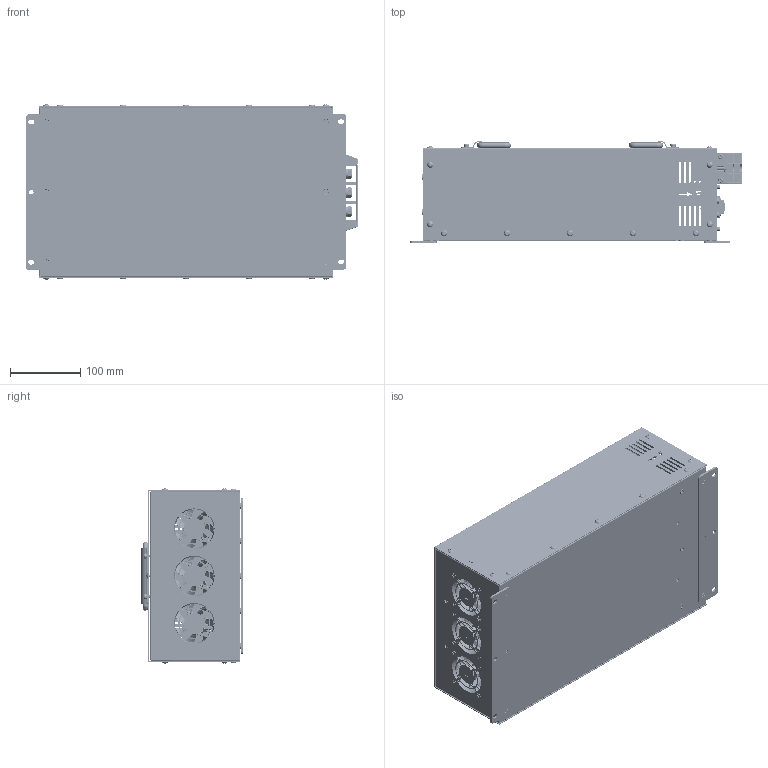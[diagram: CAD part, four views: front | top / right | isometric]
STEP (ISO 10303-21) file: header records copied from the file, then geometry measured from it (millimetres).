
FILE_DESCRIPTION(/* description */ (''),/* implementation_level */ '2;1');
FILE_NAME(/* name */ 'VX3COM_OLED_HANDLE2_2026.06.11.stp',/* time_stamp */ '2026-06-12T09:16:48+09:00',/* author */ ('Administrator'),/* organization */ (''),/* preprocessor_version */ 'ST-DEVELOPER v20.1',/* originating_system */ 'Autodesk Inventor 2026',/* authorisation */ '');
FILE_SCHEMA (('AUTOMOTIVE_DESIGN { 1 0 10303 214 3 1 1 }'));
Products named in the file (40): VX3COM_OLED_2026.06.10; FRAME3; FAN 60X60X20; POP NUT M4; OLED BMU ASS'Y_2026.04.21; PCB; 772-E09-113; (DSUB)172-009-283; KSD03H; ROTARY SWITCH; KSD03H_R.TSET; KSD02H; GREEN LED; OLED_42.4X38; 702913000; Tact Switch_6X6; tact 1; tact2; RUBBER CAP_10mm; 지지대볼트_m4_H8; pxc_0710170_03_DFK-MSTB-2-5-2-GF-5-08_3D; Gewindebuchse; DFK-MSTB_2.5-GF-5.08_GEH; DFK-2.8-MSTB_2.5_METALL.1; semsbolt_M3_6; pxc_1777989; MSTB_2_5-2-5_08; BMU LABEL엠보싱 없앤거; semsbolt_M3_6_silver; DC단자대 3P; 서일전자 단자대; 트러스머리_M5_10; M5 리벳; 우산머리_m4_8; 브라켓(VX3,X3공용); 접시머리_M5_알류미늄 
짙음; 접시머리_m4_9; COVER; 손잡이; semsbolt_M4_9
Assembly tree (112 placements, depth 4):
  VX3COM_OLED_2026.06.10
    FRAME3
    FAN 60X60X20  x3
    POP NUT M4  x17
    pxc_0710170_03_DFK-MSTB-2-5-2-GF-5-08_3D
      Gewindebuchse  x2
      DFK-MSTB_2.5-GF-5.08_GEH
      DFK-2.8-MSTB_2.5_METALL.1  x2
      semsbolt_M3_6  x2
      pxc_1777989
        MSTB_2_5-2-5_08
    BMU LABEL엠보싱 없앤거
    semsbolt_M3_6_silver  x4
    DC단자대 3P
      서일전자 단자대
      트러스머리_M5_10  x2
    M5 리벳  x10
    우산머리_m4_8  x10
    브라켓(VX3,X3공용)  x2
    접시머리_M5_알류미늄 
짙음  x12
    접시머리_m4_9  x6
    COVER
    손잡이  x2
    semsbolt_M4_9  x8
  OLED BMU ASS'Y_2026.04.21
    PCB
    772-E09-113
    (DSUB)172-009-283
    KSD03H
    ROTARY SWITCH
    KSD03H_R.TSET
    KSD02H
    GREEN LED
    OLED_42.4X38
    702913000  x4
    Tact Switch_6X6
      tact 1
      tact2
      RUBBER CAP_10mm
    지지대볼트_m4_H8  x4
Bounding box: 473.7 x 145.5 x 250.09 mm (x, y, z)
Volume: 776796.8 mm3; surface area: 1051869.6 mm2
Topology: 199 solids, 202 shells, 10345 faces, 27035 edges, 17631 vertices
Faces by surface type: plane 6072, cylinder 2295, bspline 1618, torus 219, cone 90, sphere 51
Full cylindrical faces by diameter (mm): 0.013 x9, 0.6 x5, 0.609 x1, 0.61 x27, 0.635 x9, 0.7 x24, 0.75 x21, 0.85 x3, 0.9 x24, 1 x6, 1.397 x9, 1.4 x2, 1.5 x4, 1.75 x2, 2.1 x4, 2.286 x9, 2.5 x8, 2.8 x12, 2.957 x12, 3 x6, 3.048 x4, 3.3 x4, 3.4 x6, 3.5 x1, 3.6 x19, 3.7 x4, 3.783 x2, 3.8 x8, 3.9 x2, 4 x53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
Entity records: 226238 total; most frequent: CARTESIAN_POINT 65697, ORIENTED_EDGE 34128, DIRECTION 28763, EDGE_CURVE 17064, LINE 11427, VECTOR 11427, VERTEX_POINT 11177, AXIS2_PLACEMENT_3D 8668
